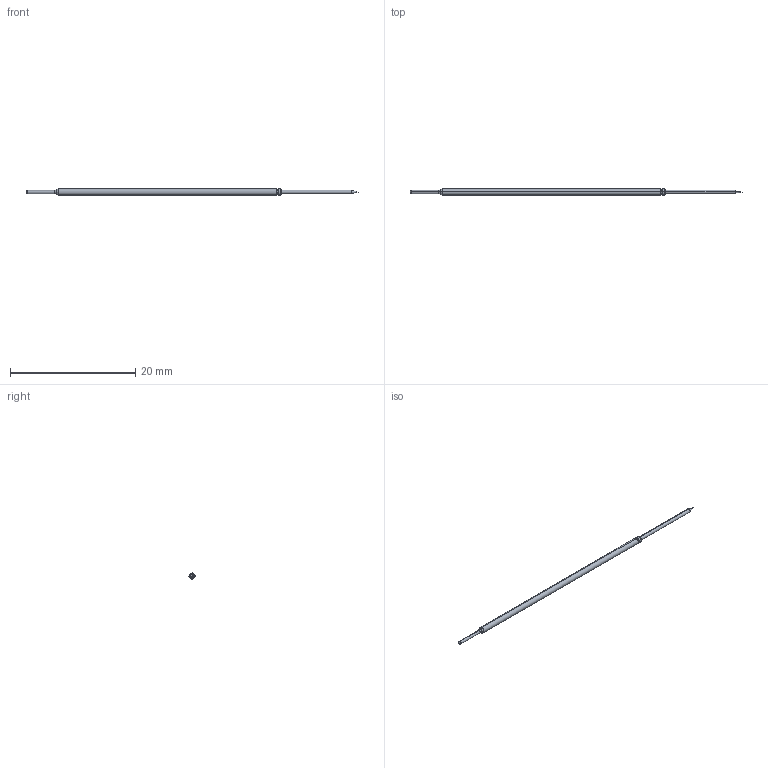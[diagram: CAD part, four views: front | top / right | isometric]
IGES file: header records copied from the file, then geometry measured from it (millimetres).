
Start section: SolidWorks IGES file using analytic representation for surfaces
Global section: file name: C:\Documents and Settings\mrumschlag\Desktop\changes\new\test\B.IGS; native system: SolidWorks 2011; preprocessor: SolidWorks 2011; author: mrumschlag; date: 110630.163411; units: inch
Bounding box: 53.09 x 0.97 x 0.97 mm (x, y, z)
Surface area: 138.8 mm2 (no closed solid volume)
Topology: 0 solids, 0 shells, 25 faces, 132 edges, 128 vertices
Faces by surface type: revolution 16, bspline 9
